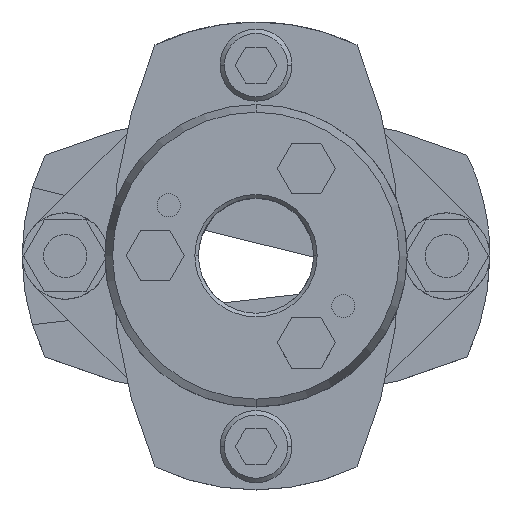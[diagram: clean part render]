
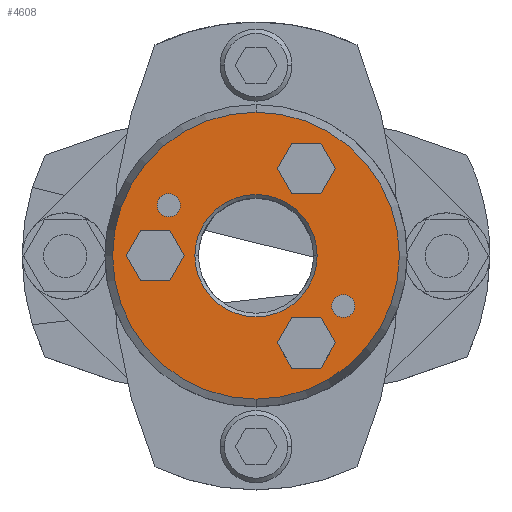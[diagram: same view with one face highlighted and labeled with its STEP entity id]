
A CAD part, top view. The second image highlights one B-rep face of the part: STEP entity #4608.
In plain terms, the highlighted planar face has unit normal (0, 0, 1).
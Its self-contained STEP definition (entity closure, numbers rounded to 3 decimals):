
#1004=CARTESIAN_POINT('',(0.,-19.928,30.75));
#1005=VERTEX_POINT('',#1004);
#1012=CARTESIAN_POINT('',(0.0,19.928,30.75));
#1013=VERTEX_POINT('',#1012);
#1014=CARTESIAN_POINT('',(0.0,0.,30.75));
#1015=DIRECTION('',(0.0,0.0,-1.0));
#1016=DIRECTION('',(0.0,-1.0,0.0));
#1017=AXIS2_PLACEMENT_3D('',#1014,#1015,#1016);
#1018=CIRCLE('',#1017,19.928);
#1019=EDGE_CURVE('',#1005,#1013,#1018,.T.);
#1114=CARTESIAN_POINT('',(-8.5,0.,30.75));
#1115=VERTEX_POINT('',#1114);
#1131=CARTESIAN_POINT('',(8.5,0.,30.75));
#1132=VERTEX_POINT('',#1131);
#1139=CARTESIAN_POINT('',(0.,0.,30.75));
#1140=DIRECTION('',(0.0,0.0,1.0));
#1141=DIRECTION('',(-1.0,0.0,0.0));
#1142=AXIS2_PLACEMENT_3D('',#1139,#1140,#1141);
#1143=CIRCLE('',#1142,8.5);
#1144=EDGE_CURVE('',#1132,#1115,#1143,.T.);
#1262=CARTESIAN_POINT('',(-13.724,7.,30.75));
#1263=VERTEX_POINT('',#1262);
#1279=CARTESIAN_POINT('',(-10.524,7.,30.75));
#1280=VERTEX_POINT('',#1279);
#1287=CARTESIAN_POINT('',(-12.124,7.,30.75));
#1288=DIRECTION('',(0.0,0.0,-1.0));
#1289=DIRECTION('',(-1.0,0.0,0.0));
#1290=AXIS2_PLACEMENT_3D('',#1287,#1288,#1289);
#1291=CIRCLE('',#1290,1.6);
#1292=EDGE_CURVE('',#1263,#1280,#1291,.T.);
#1304=CARTESIAN_POINT('',(10.524,-7.,30.75));
#1305=VERTEX_POINT('',#1304);
#1321=CARTESIAN_POINT('',(13.724,-7.,30.75));
#1322=VERTEX_POINT('',#1321);
#1329=CARTESIAN_POINT('',(12.124,-7.,30.75));
#1330=DIRECTION('',(0.0,0.0,-1.0));
#1331=DIRECTION('',(-1.0,0.0,0.0));
#1332=AXIS2_PLACEMENT_3D('',#1329,#1330,#1331);
#1333=CIRCLE('',#1332,1.6);
#1334=EDGE_CURVE('',#1305,#1322,#1333,.T.);
#3811=CARTESIAN_POINT('',(12.124,-7.,30.75));
#3812=DIRECTION('',(0.0,0.0,-1.0));
#3813=DIRECTION('',(-1.0,0.0,0.0));
#3814=AXIS2_PLACEMENT_3D('',#3811,#3812,#3813);
#3815=CIRCLE('',#3814,1.6);
#3816=EDGE_CURVE('',#1322,#1305,#3815,.T.);
#3845=CARTESIAN_POINT('',(-12.124,7.,30.75));
#3846=DIRECTION('',(0.0,0.0,-1.0));
#3847=DIRECTION('',(-1.0,0.0,0.0));
#3848=AXIS2_PLACEMENT_3D('',#3845,#3846,#3847);
#3849=CIRCLE('',#3848,1.6);
#3850=EDGE_CURVE('',#1280,#1263,#3849,.T.);
#3888=CARTESIAN_POINT('',(-18.041,0.,30.75));
#3889=VERTEX_POINT('',#3888);
#3896=CARTESIAN_POINT('',(-16.021,-3.5,30.75));
#3897=VERTEX_POINT('',#3896);
#3898=CARTESIAN_POINT('',(-16.021,-3.5,30.75));
#3899=DIRECTION('',(-0.5,0.866,0.0));
#3900=VECTOR('',#3899,4.041);
#3901=LINE('',#3898,#3900);
#3902=EDGE_CURVE('',#3897,#3889,#3901,.T.);
#3926=CARTESIAN_POINT('',(-16.021,3.5,30.75));
#3927=VERTEX_POINT('',#3926);
#3934=CARTESIAN_POINT('',(-18.041,0.,30.75));
#3935=DIRECTION('',(0.5,0.866,0.0));
#3936=VECTOR('',#3935,4.041);
#3937=LINE('',#3934,#3936);
#3938=EDGE_CURVE('',#3889,#3927,#3937,.T.);
#3957=CARTESIAN_POINT('',(-11.979,3.5,30.75));
#3958=VERTEX_POINT('',#3957);
#3965=CARTESIAN_POINT('',(-16.021,3.5,30.75));
#3966=DIRECTION('',(1.0,0.0,0.0));
#3967=VECTOR('',#3966,4.041);
#3968=LINE('',#3965,#3967);
#3969=EDGE_CURVE('',#3927,#3958,#3968,.T.);
#3988=CARTESIAN_POINT('',(-9.959,0.,30.75));
#3989=VERTEX_POINT('',#3988);
#3996=CARTESIAN_POINT('',(-11.979,3.5,30.75));
#3997=DIRECTION('',(0.5,-0.866,0.0));
#3998=VECTOR('',#3997,4.041);
#3999=LINE('',#3996,#3998);
#4000=EDGE_CURVE('',#3958,#3989,#3999,.T.);
#4019=CARTESIAN_POINT('',(-11.979,-3.5,30.75));
#4020=VERTEX_POINT('',#4019);
#4027=CARTESIAN_POINT('',(-9.959,0.,30.75));
#4028=DIRECTION('',(-0.5,-0.866,0.0));
#4029=VECTOR('',#4028,4.041);
#4030=LINE('',#4027,#4029);
#4031=EDGE_CURVE('',#3989,#4020,#4030,.T.);
#4049=CARTESIAN_POINT('',(-11.979,-3.5,30.75));
#4050=DIRECTION('',(-1.0,0.0,0.0));
#4051=VECTOR('',#4050,4.041);
#4052=LINE('',#4049,#4051);
#4053=EDGE_CURVE('',#4020,#3897,#4052,.T.);
#4088=CARTESIAN_POINT('',(2.959,-12.124,30.75));
#4089=VERTEX_POINT('',#4088);
#4096=CARTESIAN_POINT('',(4.979,-15.624,30.75));
#4097=VERTEX_POINT('',#4096);
#4098=CARTESIAN_POINT('',(4.979,-15.624,30.75));
#4099=DIRECTION('',(-0.5,0.866,0.0));
#4100=VECTOR('',#4099,4.041);
#4101=LINE('',#4098,#4100);
#4102=EDGE_CURVE('',#4097,#4089,#4101,.T.);
#4126=CARTESIAN_POINT('',(4.979,-8.624,30.75));
#4127=VERTEX_POINT('',#4126);
#4134=CARTESIAN_POINT('',(2.959,-12.124,30.75));
#4135=DIRECTION('',(0.5,0.866,0.0));
#4136=VECTOR('',#4135,4.041);
#4137=LINE('',#4134,#4136);
#4138=EDGE_CURVE('',#4089,#4127,#4137,.T.);
#4157=CARTESIAN_POINT('',(9.021,-8.624,30.75));
#4158=VERTEX_POINT('',#4157);
#4165=CARTESIAN_POINT('',(4.979,-8.624,30.75));
#4166=DIRECTION('',(1.0,0.0,0.0));
#4167=VECTOR('',#4166,4.041);
#4168=LINE('',#4165,#4167);
#4169=EDGE_CURVE('',#4127,#4158,#4168,.T.);
#4188=CARTESIAN_POINT('',(11.041,-12.124,30.75));
#4189=VERTEX_POINT('',#4188);
#4196=CARTESIAN_POINT('',(9.021,-8.624,30.75));
#4197=DIRECTION('',(0.5,-0.866,0.0));
#4198=VECTOR('',#4197,4.041);
#4199=LINE('',#4196,#4198);
#4200=EDGE_CURVE('',#4158,#4189,#4199,.T.);
#4219=CARTESIAN_POINT('',(9.021,-15.624,30.75));
#4220=VERTEX_POINT('',#4219);
#4227=CARTESIAN_POINT('',(11.041,-12.124,30.75));
#4228=DIRECTION('',(-0.5,-0.866,0.0));
#4229=VECTOR('',#4228,4.041);
#4230=LINE('',#4227,#4229);
#4231=EDGE_CURVE('',#4189,#4220,#4230,.T.);
#4249=CARTESIAN_POINT('',(9.021,-15.624,30.75));
#4250=DIRECTION('',(-1.0,0.0,0.0));
#4251=VECTOR('',#4250,4.041);
#4252=LINE('',#4249,#4251);
#4253=EDGE_CURVE('',#4220,#4097,#4252,.T.);
#4288=CARTESIAN_POINT('',(2.959,12.124,30.75));
#4289=VERTEX_POINT('',#4288);
#4296=CARTESIAN_POINT('',(4.979,8.624,30.75));
#4297=VERTEX_POINT('',#4296);
#4298=CARTESIAN_POINT('',(4.979,8.624,30.75));
#4299=DIRECTION('',(-0.5,0.866,0.0));
#4300=VECTOR('',#4299,4.041);
#4301=LINE('',#4298,#4300);
#4302=EDGE_CURVE('',#4297,#4289,#4301,.T.);
#4326=CARTESIAN_POINT('',(4.979,15.624,30.75));
#4327=VERTEX_POINT('',#4326);
#4334=CARTESIAN_POINT('',(2.959,12.124,30.75));
#4335=DIRECTION('',(0.5,0.866,0.0));
#4336=VECTOR('',#4335,4.041);
#4337=LINE('',#4334,#4336);
#4338=EDGE_CURVE('',#4289,#4327,#4337,.T.);
#4357=CARTESIAN_POINT('',(9.021,15.624,30.75));
#4358=VERTEX_POINT('',#4357);
#4365=CARTESIAN_POINT('',(4.979,15.624,30.75));
#4366=DIRECTION('',(1.0,0.0,0.0));
#4367=VECTOR('',#4366,4.041);
#4368=LINE('',#4365,#4367);
#4369=EDGE_CURVE('',#4327,#4358,#4368,.T.);
#4388=CARTESIAN_POINT('',(11.041,12.124,30.75));
#4389=VERTEX_POINT('',#4388);
#4396=CARTESIAN_POINT('',(9.021,15.624,30.75));
#4397=DIRECTION('',(0.5,-0.866,0.0));
#4398=VECTOR('',#4397,4.041);
#4399=LINE('',#4396,#4398);
#4400=EDGE_CURVE('',#4358,#4389,#4399,.T.);
#4419=CARTESIAN_POINT('',(9.021,8.624,30.75));
#4420=VERTEX_POINT('',#4419);
#4427=CARTESIAN_POINT('',(11.041,12.124,30.75));
#4428=DIRECTION('',(-0.5,-0.866,0.0));
#4429=VECTOR('',#4428,4.041);
#4430=LINE('',#4427,#4429);
#4431=EDGE_CURVE('',#4389,#4420,#4430,.T.);
#4449=CARTESIAN_POINT('',(9.021,8.624,30.75));
#4450=DIRECTION('',(-1.0,0.0,0.0));
#4451=VECTOR('',#4450,4.041);
#4452=LINE('',#4449,#4451);
#4453=EDGE_CURVE('',#4420,#4297,#4452,.T.);
#4545=CARTESIAN_POINT('',(0.,0.,30.75));
#4546=DIRECTION('',(0.0,0.0,1.0));
#4547=DIRECTION('',(-1.0,0.0,0.0));
#4548=AXIS2_PLACEMENT_3D('',#4545,#4546,#4547);
#4549=CIRCLE('',#4548,8.5);
#4550=EDGE_CURVE('',#1115,#1132,#4549,.T.);
#4557=CARTESIAN_POINT('',(0.,-9.964,30.75));
#4558=DIRECTION('',(0.0,0.0,1.0));
#4559=DIRECTION('',(-1.0,0.0,0.0));
#4560=AXIS2_PLACEMENT_3D('',#4557,#4558,#4559);
#4561=PLANE('',#4560);
#4562=ORIENTED_EDGE('',*,*,#1019,.F.);
#4563=CARTESIAN_POINT('',(0.0,0.,30.75));
#4564=DIRECTION('',(0.0,0.0,-1.0));
#4565=DIRECTION('',(0.0,-1.0,0.0));
#4566=AXIS2_PLACEMENT_3D('',#4563,#4564,#4565);
#4567=CIRCLE('',#4566,19.928);
#4568=EDGE_CURVE('',#1013,#1005,#4567,.T.);
#4569=ORIENTED_EDGE('',*,*,#4568,.F.);
#4570=EDGE_LOOP('',(#4562,#4569));
#4571=FACE_OUTER_BOUND('',#4570,.T.);
#4572=ORIENTED_EDGE('',*,*,#1334,.T.);
#4573=ORIENTED_EDGE('',*,*,#3816,.T.);
#4574=EDGE_LOOP('',(#4572,#4573));
#4575=FACE_BOUND('',#4574,.T.);
#4576=ORIENTED_EDGE('',*,*,#1292,.T.);
#4577=ORIENTED_EDGE('',*,*,#3850,.T.);
#4578=EDGE_LOOP('',(#4576,#4577));
#4579=FACE_BOUND('',#4578,.T.);
#4580=ORIENTED_EDGE('',*,*,#3902,.T.);
#4581=ORIENTED_EDGE('',*,*,#3938,.T.);
#4582=ORIENTED_EDGE('',*,*,#3969,.T.);
#4583=ORIENTED_EDGE('',*,*,#4000,.T.);
#4584=ORIENTED_EDGE('',*,*,#4031,.T.);
#4585=ORIENTED_EDGE('',*,*,#4053,.T.);
#4586=EDGE_LOOP('',(#4580,#4581,#4582,#4583,#4584,#4585));
#4587=FACE_BOUND('',#4586,.T.);
#4588=ORIENTED_EDGE('',*,*,#4102,.T.);
#4589=ORIENTED_EDGE('',*,*,#4138,.T.);
#4590=ORIENTED_EDGE('',*,*,#4169,.T.);
#4591=ORIENTED_EDGE('',*,*,#4200,.T.);
#4592=ORIENTED_EDGE('',*,*,#4231,.T.);
#4593=ORIENTED_EDGE('',*,*,#4253,.T.);
#4594=EDGE_LOOP('',(#4588,#4589,#4590,#4591,#4592,#4593));
#4595=FACE_BOUND('',#4594,.T.);
#4596=ORIENTED_EDGE('',*,*,#4302,.T.);
#4597=ORIENTED_EDGE('',*,*,#4338,.T.);
#4598=ORIENTED_EDGE('',*,*,#4369,.T.);
#4599=ORIENTED_EDGE('',*,*,#4400,.T.);
#4600=ORIENTED_EDGE('',*,*,#4431,.T.);
#4601=ORIENTED_EDGE('',*,*,#4453,.T.);
#4602=EDGE_LOOP('',(#4596,#4597,#4598,#4599,#4600,#4601));
#4603=FACE_BOUND('',#4602,.T.);
#4604=ORIENTED_EDGE('',*,*,#1144,.F.);
#4605=ORIENTED_EDGE('',*,*,#4550,.F.);
#4606=EDGE_LOOP('',(#4604,#4605));
#4607=FACE_BOUND('',#4606,.T.);
#4608=ADVANCED_FACE('',(#4571,#4575,#4579,#4587,#4595,#4603,#4607),#4561,.T.);
